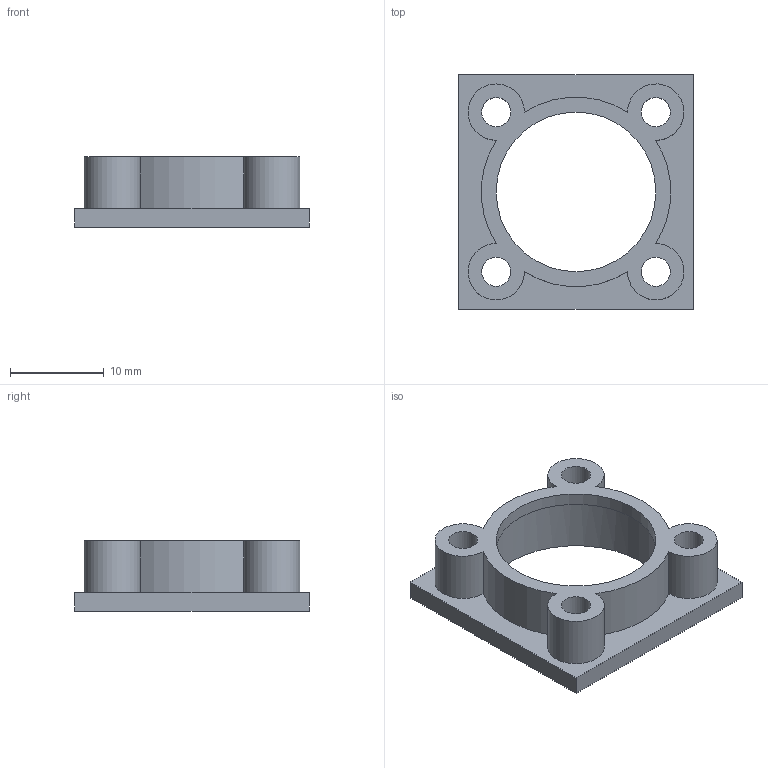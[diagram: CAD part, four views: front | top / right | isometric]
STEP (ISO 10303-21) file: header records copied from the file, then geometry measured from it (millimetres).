
FILE_DESCRIPTION(('FreeCAD Model'),'2;1');
FILE_NAME('Open CASCADE Shape Model','2026-08-11T15:28:37',('Author'),( ''),'Open CASCADE STEP processor 7.8','FreeCAD','Unknown');
FILE_SCHEMA(('AUTOMOTIVE_DESIGN { 1 0 10303 214 1 1 1 1 }'));
Length unit declared in the file: millimetre
Products named in the file (1): Body
Bounding box: 25 x 25 x 7.5 mm (x, y, z)
Volume: 1271.4 mm3; surface area: 2237.2 mm2
Topology: 1 solids, 1 shells, 22 faces, 72 edges, 54 vertices
Faces by surface type: cylinder 14, plane 8
Full cylindrical faces by diameter (mm): 3.1 x4, 17 x1, 19.1 x1
Entity records: 883 total; most frequent: DIRECTION 159, CARTESIAN_POINT 154, ORIENTED_EDGE 144, EDGE_CURVE 72, AXIS2_PLACEMENT_3D 69, VERTEX_POINT 54, CIRCLE 46, FACE_BOUND 34
